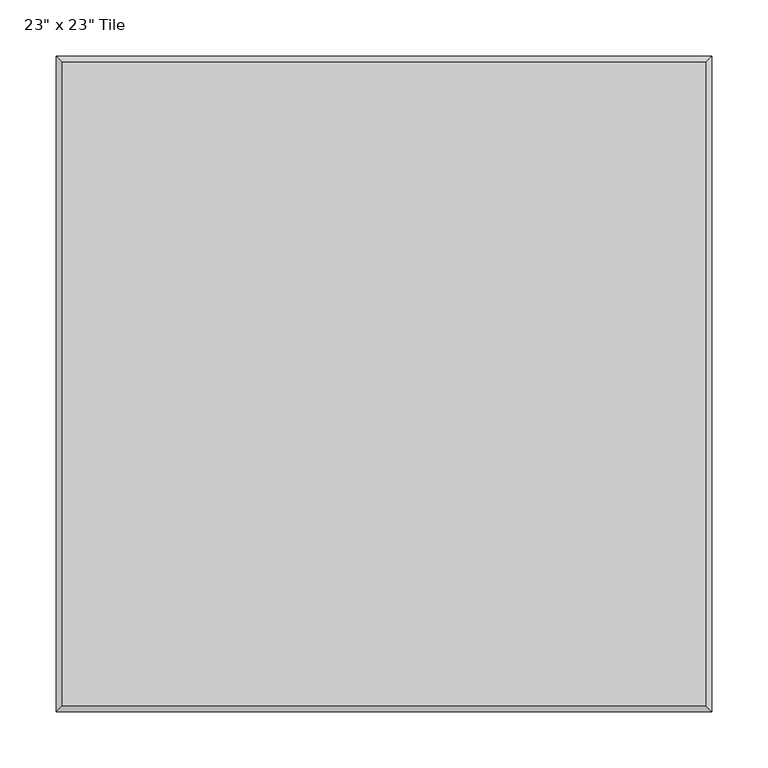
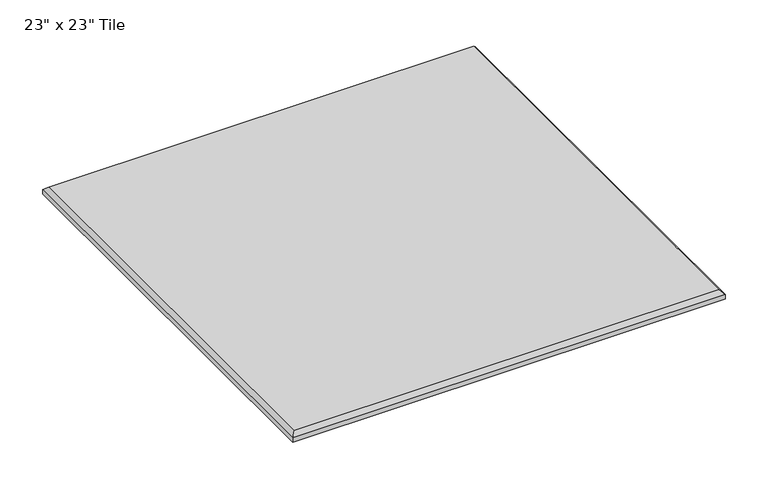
"""IFC4 building model written with IfcOpenShell, lengths in millimetres: proxy geometry."""

from ifc_helpers import new_model, si_unit, origin, place, context, project, spatial, faceted_brep, source, transform, mapped, element, save


def proxy_e55ecfb7(model_context):
    return source(origin(), model_context, "Body", "Brep", [
        faceted_brep([(845.3945313, 286.5945313, 12.0054687), (272.2054688, 286.5945313, 12.0054687), (272.2054688, -286.5945312, 12.0054687), (845.3945313, -286.5945312, 12.0054687), (850.9, -292.1, 0.0), (266.7, -292.1, 0.0), (266.7, 292.1, 0.0), (850.9, 292.1, 0.0), (850.9, -292.1, 6.5), (266.7, -292.1, 6.5), (266.7, 292.1, 6.5), (850.9, 292.1, 6.5)], [[[0, 1, 2, 3]], [[4, 5, 6, 7]], [[4, 8, 9, 5]], [[5, 9, 10, 6]], [[6, 10, 11, 7]], [[7, 11, 8, 4]], [[8, 11, 0, 3]], [[3, 2, 9, 8]], [[2, 1, 10, 9]], [[11, 10, 1, 0]]]),
    ])


if __name__ == "__main__":
    model = new_model("IFC4")
    model_context = context("Model", 3, world=origin())
    ifc_project = project(units=[si_unit("LENGTHUNIT", "METRE", prefix="MILLI")], contexts=[model_context])
    site = spatial("IfcSite", under=ifc_project)
    building = spatial("IfcBuilding", under=site)
    placement = place(None, origin())
    proxy_shape = proxy_e55ecfb7(model_context)
    element("IfcBuildingElementProxy", 1, Name="Wall-Panel-Kirei-EchoPanel-Echotile_Sync : 23\" x 23\" Tile", ObjectType="Wall-Panel-Kirei-EchoPanel-Echotile_Sync : 23\" x 23\" Tile", at=placement, inside=building, context=model_context, shape_type="MappedRepresentation", body=[
        mapped(proxy_shape, transform((0.0, 0.0, 0.0), x_axis=(1.0, 0.0, 0.0), y_axis=(0.0, 1.0, 0.0), z_axis=(0.0, 0.0, 1.0))),
    ])
    save(model, "model.ifc")
